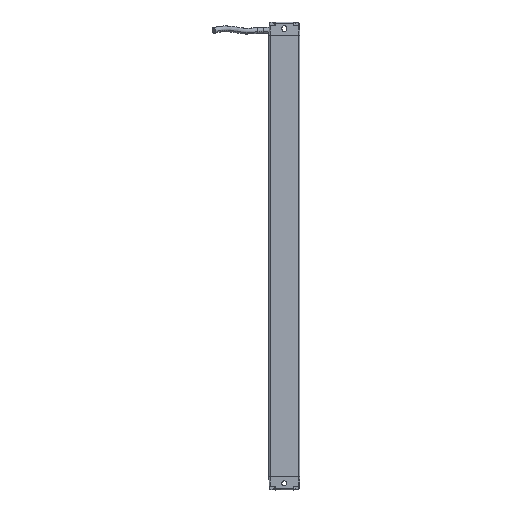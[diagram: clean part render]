
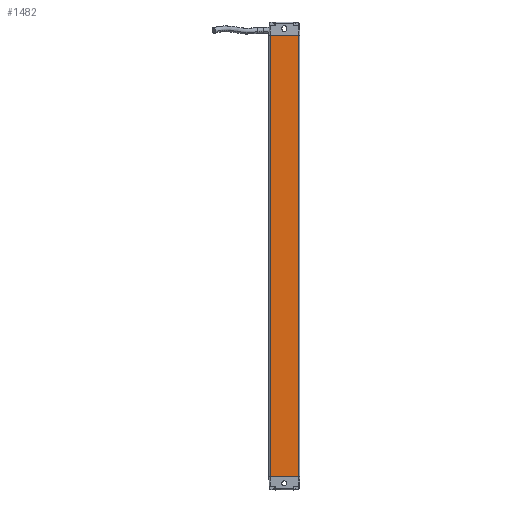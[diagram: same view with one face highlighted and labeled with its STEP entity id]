
A CAD part, front view. The second image highlights one B-rep face of the part: STEP entity #1482.
In plain terms, the highlighted planar face has unit normal (-0.001, -1, 0).
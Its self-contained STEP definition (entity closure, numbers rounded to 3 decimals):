
#1482=ADVANCED_FACE('',(#2588),#2115,.T.);
#2115=PLANE('',#14912);
#2588=FACE_OUTER_BOUND('',#3333,.T.);
#3333=EDGE_LOOP('',(#5778,#5779,#5780,#5781));
#5778=ORIENTED_EDGE('',*,*,#10700,.T.);
#5779=ORIENTED_EDGE('',*,*,#10653,.F.);
#5780=ORIENTED_EDGE('',*,*,#10698,.T.);
#5781=ORIENTED_EDGE('',*,*,#10701,.T.);
#9003=VERTEX_POINT('',#22578);
#9004=VERTEX_POINT('',#22580);
#9041=VERTEX_POINT('',#22669);
#9042=VERTEX_POINT('',#22673);
#10653=EDGE_CURVE('',#9003,#9004,#12502,.T.);
#10698=EDGE_CURVE('',#9003,#9041,#12533,.T.);
#10700=EDGE_CURVE('',#9042,#9004,#12534,.T.);
#10701=EDGE_CURVE('',#9041,#9042,#12535,.T.);
#12502=LINE('',#22579,#13717);
#12533=LINE('',#22668,#13748);
#12534=LINE('',#22672,#13749);
#12535=LINE('',#22674,#13750);
#13717=VECTOR('',#17065,1.);
#13748=VECTOR('',#17138,1.);
#13749=VECTOR('',#17143,1.);
#13750=VECTOR('',#17144,1.);
#14912=AXIS2_PLACEMENT_3D('',#22675,#17145,#17146);
#17065=DIRECTION('',(1.,-0.001,0.));
#17138=DIRECTION('',(0.,0.,-1.));
#17143=DIRECTION('',(0.,0.,1.));
#17144=DIRECTION('',(1.,-0.001,0.));
#17145=DIRECTION('',(-0.001,-1.,0.));
#17146=DIRECTION('',(-1.,0.001,0.));
#22578=CARTESIAN_POINT('',(53.048,-142.376,280.376));
#22579=CARTESIAN_POINT('',(79.028,-142.395,280.376));
#22580=CARTESIAN_POINT('',(79.028,-142.395,280.376));
#22668=CARTESIAN_POINT('',(53.048,-142.376,543.376));
#22669=CARTESIAN_POINT('',(53.048,-142.376,-121.624));
#22672=CARTESIAN_POINT('',(79.028,-142.395,198.376));
#22673=CARTESIAN_POINT('',(79.028,-142.395,-121.624));
#22674=CARTESIAN_POINT('',(79.028,-142.395,-121.624));
#22675=CARTESIAN_POINT('',(79.028,-142.395,543.376));
